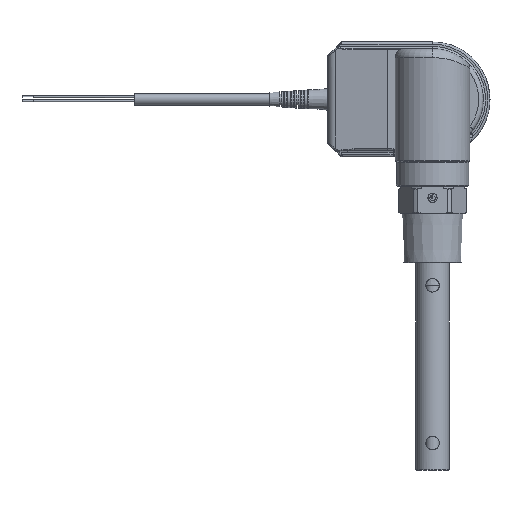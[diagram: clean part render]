
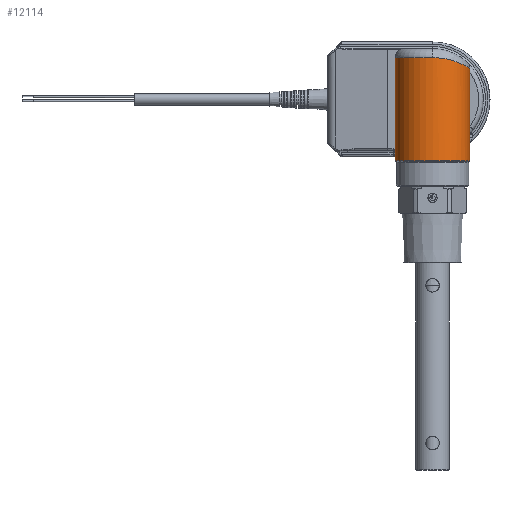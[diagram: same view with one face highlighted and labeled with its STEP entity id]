
A CAD part, left-side view. The second image highlights one B-rep face of the part: STEP entity #12114.
In plain terms, the highlighted cylindrical face has radius 16.5 mm (diameter 33 mm), a full revolution.
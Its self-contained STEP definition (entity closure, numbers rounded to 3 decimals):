
#11988=CARTESIAN_POINT('',(-29.79,26.549,63.341));
#11989=VERTEX_POINT('',#11988);
#11990=CARTESIAN_POINT('',(-29.79,10.049,63.341));
#11991=DIRECTION('',(0.0,0.0,-1.0));
#11992=DIRECTION('',(0.0,-1.0,0.0));
#11993=AXIS2_PLACEMENT_3D('',#11990,#11991,#11992);
#11994=CIRCLE('',#11993,16.5);
#11995=EDGE_CURVE('',#11989,#11989,#11994,.T.);
#12000=CARTESIAN_POINT('',(-29.79,10.049,90.475));
#12001=DIRECTION('',(0.,0.,1.0));
#12002=DIRECTION('',(0.0,-1.0,0.0));
#12003=AXIS2_PLACEMENT_3D('',#12000,#12001,#12002);
#12004=CYLINDRICAL_SURFACE('',#12003,16.5);
#12005=CARTESIAN_POINT('',(-22.164,24.68,63.975));
#12006=VERTEX_POINT('',#12005);
#12007=CARTESIAN_POINT('',(-29.828,26.549,65.975));
#12008=VERTEX_POINT('',#12007);
#12009=CARTESIAN_POINT('',(-22.164,24.68,63.975));
#12010=CARTESIAN_POINT('',(-22.647,24.932,63.975));
#12011=CARTESIAN_POINT('',(-23.642,25.389,64.081));
#12012=CARTESIAN_POINT('',(-25.16,25.912,64.425));
#12013=CARTESIAN_POINT('',(-26.445,26.221,64.808));
#12014=CARTESIAN_POINT('',(-27.481,26.393,65.149));
#12015=CARTESIAN_POINT('',(-28.259,26.484,65.416));
#12016=CARTESIAN_POINT('',(-29.038,26.538,65.692));
#12017=CARTESIAN_POINT('',(-29.555,26.549,65.877));
#12018=CARTESIAN_POINT('',(-29.818,26.549,65.972));
#12019=CARTESIAN_POINT('',(-29.823,26.549,65.973));
#12020=CARTESIAN_POINT('',(-29.828,26.549,65.975));
#12021=B_SPLINE_CURVE_WITH_KNOTS('',3,(#12009,#12010,#12011,#12012,#12013,#12014,#12015,#12016,#12017,#12018,#12019,#12020),.UNSPECIFIED.,.F.,.U.,(4,1,1,1,1,1,1,2,4),(0.,0.173,0.347,0.52,0.607,0.693,0.78,0.867,0.868),.UNSPECIFIED.);
#12022=EDGE_CURVE('',#12006,#12008,#12021,.T.);
#12023=ORIENTED_EDGE('',*,*,#12022,.F.);
#12024=CARTESIAN_POINT('',(-13.29,10.049,63.975));
#12025=VERTEX_POINT('',#12024);
#12026=CARTESIAN_POINT('',(-29.79,10.049,63.975));
#12027=DIRECTION('',(0.,0.,1.0));
#12028=DIRECTION('',(0.819,0.574,0.));
#12029=AXIS2_PLACEMENT_3D('',#12026,#12027,#12028);
#12030=CIRCLE('',#12029,16.5);
#12031=EDGE_CURVE('',#12025,#12006,#12030,.T.);
#12032=ORIENTED_EDGE('',*,*,#12031,.F.);
#12033=CARTESIAN_POINT('',(-25.098,-5.77,69.963));
#12034=VERTEX_POINT('',#12033);
#12035=CARTESIAN_POINT('',(-25.098,-5.77,69.963));
#12036=CARTESIAN_POINT('',(-24.124,-5.481,69.712));
#12037=CARTESIAN_POINT('',(-21.308,-4.347,68.761));
#12038=CARTESIAN_POINT('',(-17.38,-1.346,66.699));
#12039=CARTESIAN_POINT('',(-14.113,3.78,64.564));
#12040=CARTESIAN_POINT('',(-13.29,7.962,63.975));
#12041=CARTESIAN_POINT('',(-13.29,10.049,63.975));
#12042=B_SPLINE_CURVE_WITH_KNOTS('',3,(#12035,#12036,#12037,#12038,#12039,#12040,#12041),.UNSPECIFIED.,.F.,.U.,(4,1,1,1,4),(0.0,0.332,0.996,1.66,2.323),.UNSPECIFIED.);
#12043=EDGE_CURVE('',#12034,#12025,#12042,.T.);
#12044=ORIENTED_EDGE('',*,*,#12043,.F.);
#12045=CARTESIAN_POINT('',(-29.828,-6.451,71.501));
#12046=VERTEX_POINT('',#12045);
#12047=CARTESIAN_POINT('',(-29.828,-6.451,71.501));
#12048=CARTESIAN_POINT('',(-29.822,-6.451,71.499));
#12049=CARTESIAN_POINT('',(-29.817,-6.451,71.497));
#12050=CARTESIAN_POINT('',(-28.234,-6.453,70.934));
#12051=CARTESIAN_POINT('',(-26.651,-6.231,70.362));
#12052=CARTESIAN_POINT('',(-25.098,-5.77,69.963));
#12053=B_SPLINE_CURVE_WITH_KNOTS('',3,(#12047,#12048,#12049,#12050,#12051,#12052),.UNSPECIFIED.,.F.,.U.,(4,2,4),(-0.531,-0.529,0.0),.UNSPECIFIED.);
#12054=EDGE_CURVE('',#12046,#12034,#12053,.T.);
#12055=ORIENTED_EDGE('',*,*,#12054,.F.);
#12056=CARTESIAN_POINT('',(-29.828,-6.451,90.475));
#12057=VERTEX_POINT('',#12056);
#12058=CARTESIAN_POINT('',(-29.828,-6.451,71.501));
#12059=DIRECTION('',(0.0,0.0,1.0));
#12060=VECTOR('',#12059,18.974);
#12061=LINE('',#12058,#12060);
#12062=EDGE_CURVE('',#12046,#12057,#12061,.T.);
#12063=ORIENTED_EDGE('',*,*,#12062,.T.);
#12064=CARTESIAN_POINT('',(-29.79,-6.451,90.475));
#12065=VERTEX_POINT('',#12064);
#12066=CARTESIAN_POINT('',(-29.79,10.049,90.475));
#12067=DIRECTION('',(0.0,0.0,1.0));
#12068=DIRECTION('',(0.0,-1.0,0.0));
#12069=AXIS2_PLACEMENT_3D('',#12066,#12067,#12068);
#12070=CIRCLE('',#12069,16.5);
#12071=EDGE_CURVE('',#12057,#12065,#12070,.T.);
#12072=ORIENTED_EDGE('',*,*,#12071,.T.);
#12073=CARTESIAN_POINT('',(-29.79,-6.451,104.113));
#12074=VERTEX_POINT('',#12073);
#12075=CARTESIAN_POINT('',(-29.79,-6.451,90.475));
#12076=DIRECTION('',(0.0,0.0,1.0));
#12077=VECTOR('',#12076,13.638);
#12078=LINE('',#12075,#12077);
#12079=EDGE_CURVE('',#12065,#12074,#12078,.T.);
#12080=ORIENTED_EDGE('',*,*,#12079,.T.);
#12081=CARTESIAN_POINT('',(-46.29,10.049,108.975));
#12082=VERTEX_POINT('',#12081);
#12083=CARTESIAN_POINT('',(-46.29,10.049,108.975));
#12084=CARTESIAN_POINT('',(-46.29,8.776,108.975));
#12085=CARTESIAN_POINT('',(-45.988,6.202,108.819));
#12086=CARTESIAN_POINT('',(-44.264,1.479,107.959));
#12087=CARTESIAN_POINT('',(-40.4,-3.251,106.172));
#12088=CARTESIAN_POINT('',(-34.915,-5.984,104.445));
#12089=CARTESIAN_POINT('',(-31.063,-6.451,104.113));
#12090=CARTESIAN_POINT('',(-29.79,-6.451,104.113));
#12091=B_SPLINE_CURVE_WITH_KNOTS('',3,(#12083,#12084,#12085,#12086,#12087,#12088,#12089,#12090),.UNSPECIFIED.,.F.,.U.,(4,1,1,1,1,4),(-2.025,-1.736,-1.447,-0.868,-0.289,0.0),.UNSPECIFIED.);
#12092=EDGE_CURVE('',#12082,#12074,#12091,.T.);
#12093=ORIENTED_EDGE('',*,*,#12092,.F.);
#12094=CARTESIAN_POINT('',(-29.828,26.549,108.975));
#12095=VERTEX_POINT('',#12094);
#12096=CARTESIAN_POINT('',(-29.79,10.049,108.975));
#12097=DIRECTION('',(0.,0.,1.0));
#12098=DIRECTION('',(-0.708,0.706,0.));
#12099=AXIS2_PLACEMENT_3D('',#12096,#12097,#12098);
#12100=CIRCLE('',#12099,16.5);
#12101=EDGE_CURVE('',#12095,#12082,#12100,.T.);
#12102=ORIENTED_EDGE('',*,*,#12101,.F.);
#12103=CARTESIAN_POINT('',(-29.828,26.549,65.975));
#12104=DIRECTION('',(0.0,0.0,1.0));
#12105=VECTOR('',#12104,43.0);
#12106=LINE('',#12103,#12105);
#12107=EDGE_CURVE('',#12008,#12095,#12106,.T.);
#12108=ORIENTED_EDGE('',*,*,#12107,.F.);
#12109=EDGE_LOOP('',(#12023,#12032,#12044,#12055,#12063,#12072,#12080,#12093,#12102,#12108));
#12110=FACE_OUTER_BOUND('',#12109,.T.);
#12111=ORIENTED_EDGE('',*,*,#11995,.F.);
#12112=EDGE_LOOP('',(#12111));
#12113=FACE_BOUND('',#12112,.T.);
#12114=ADVANCED_FACE('',(#12110,#12113),#12004,.T.);
